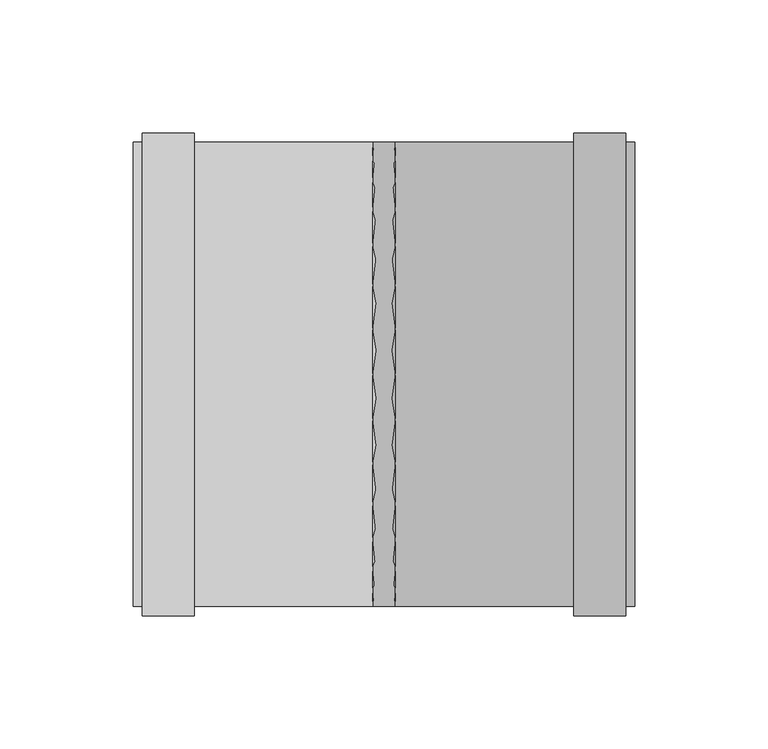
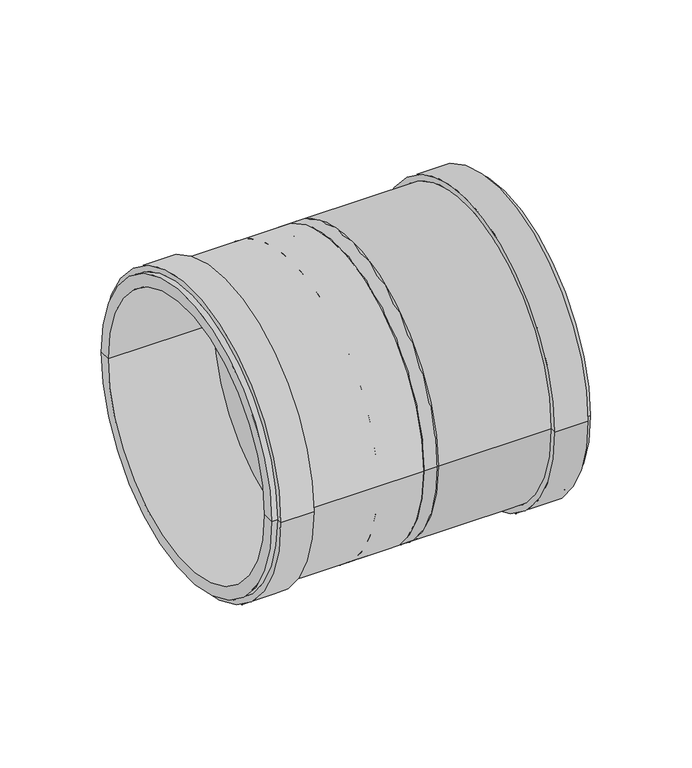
"""IFC4 building model written with IfcOpenShell, lengths in millimetres: pipe fitting geometry, pf_HTU : pf_HTU."""

from ifc_helpers import new_model, si_unit, point, frame, origin, origin_2d, place, context, project, spatial, polyline, circle_curve, trimmed, segment, composite_curve, outline, extrude, source, transform, mapped, element, save
from ifc_brep_helpers import plane_surface, cylinder_surface, revolved_surface, advanced_brep


def pipe_fitting_ccd48016(model_context):
    return source(origin(), model_context, "Body", "SolidModel", [
        advanced_brep(
        [(6.5, -80.0, 0.0), (6.5, 80.0, 0.0), (16.8, 87.1, 0.0), (16.8, -87.1, 0.0), (6.5, 0.0, 0.0), (106.5, -87.1, 0.0), (106.5, 87.1, 0.0), (106.5, 80.0, 0.0), (106.5, -80.0, 0.0), (103.1, -87.1, 0.0), (103.1, 87.1, 0.0), (103.1, -90.5, 0.0), (103.1, 90.5, 0.0), (83.6, -90.5, 0.0), (83.6, 90.5, 0.0), (83.6, -87.1, 0.0), (83.6, 87.1, 0.0), (16.8, -80.0, 0.0), (16.8, 80.0, 0.0), (16.8, 0.0, 0.0)],
        [
            (0, 1, circle_curve(frame((6.5, 0.0, 0.0), z_axis=(1.0, 0.0, 0.0), x_axis=(0.0, 1.0, 0.0)), 80.0)),
            (1, 2),
            (2, 3, circle_curve(frame((16.8, 0.0, 0.0), z_axis=(-1.0, 0.0, 0.0), x_axis=(0.0, 1.0, 0.0)), 87.1)),
            (3, 0),
            (1, 0, circle_curve(frame((6.5, 0.0, 0.0), z_axis=(1.0, 0.0, 0.0), x_axis=(0.0, 1.0, 0.0)), 80.0)),
            (3, 2, circle_curve(frame((16.8, 0.0, 0.0), z_axis=(-1.0, 0.0, 0.0), x_axis=(0.0, 1.0, 0.0)), 87.1)),
            (4, 1),
            (0, 4),
            (5, 6, circle_curve(frame((106.5, 0.0, 0.0), z_axis=(1.0, 0.0, 0.0), x_axis=(0.0, 1.0, 0.0)), 87.1)),
            (6, 7),
            (7, 8, circle_curve(frame((106.5, 0.0, 0.0), z_axis=(-1.0, 0.0, 0.0), x_axis=(0.0, 1.0, 0.0)), 80.0)),
            (8, 5),
            (6, 5, circle_curve(frame((106.5, 0.0, 0.0), z_axis=(1.0, 0.0, 0.0), x_axis=(0.0, 1.0, 0.0)), 87.1)),
            (8, 7, circle_curve(frame((106.5, 0.0, 0.0), z_axis=(-1.0, 0.0, 0.0), x_axis=(0.0, 1.0, 0.0)), 80.0)),
            (9, 10, circle_curve(frame((103.1, 0.0, 0.0), z_axis=(1.0, 0.0, 0.0), x_axis=(0.0, 1.0, 0.0)), 87.1)),
            (10, 6),
            (5, 9),
            (10, 9, circle_curve(frame((103.1, 0.0, 0.0), z_axis=(1.0, 0.0, 0.0), x_axis=(0.0, 1.0, 0.0)), 87.1)),
            (11, 12, circle_curve(frame((103.1, 0.0, 0.0), z_axis=(1.0, 0.0, 0.0), x_axis=(0.0, 1.0, 0.0)), 90.5)),
            (12, 10),
            (9, 11),
            (12, 11, circle_curve(frame((103.1, 0.0, 0.0), z_axis=(1.0, 0.0, 0.0), x_axis=(0.0, 1.0, 0.0)), 90.5)),
            (13, 14, circle_curve(frame((83.6, 0.0, 0.0), z_axis=(1.0, 0.0, 0.0), x_axis=(0.0, 1.0, 0.0)), 90.5)),
            (14, 12),
            (11, 13),
            (14, 13, circle_curve(frame((83.6, 0.0, 0.0), z_axis=(1.0, 0.0, 0.0), x_axis=(0.0, 1.0, 0.0)), 90.5)),
            (15, 16, circle_curve(frame((83.6, 0.0, 0.0), z_axis=(1.0, 0.0, 0.0), x_axis=(0.0, 1.0, 0.0)), 87.1)),
            (16, 14),
            (13, 15),
            (16, 15, circle_curve(frame((83.6, 0.0, 0.0), z_axis=(1.0, 0.0, 0.0), x_axis=(0.0, 1.0, 0.0)), 87.1)),
            (2, 16),
            (15, 3),
            (17, 18, circle_curve(frame((16.8, 0.0, 0.0), z_axis=(1.0, 0.0, 0.0), x_axis=(0.0, 1.0, 0.0)), 80.0)),
            (18, 19),
            (19, 17),
            (18, 17, circle_curve(frame((16.8, 0.0, 0.0), z_axis=(1.0, 0.0, 0.0), x_axis=(0.0, 1.0, 0.0)), 80.0)),
            (7, 18),
            (17, 8),
        ],
        [
            revolved_surface(polyline([(16.8, 87.1, 0.0), (6.5, 80.0, 0.0)]), (6.5, 0.0, 0.0), (-1.0, 0.0, 0.0)),
            plane_surface(frame((6.5, 0.0, 0.0), z_axis=(-1.0, 0.0, 0.0), x_axis=(0.0, 1.0, 0.0))),
            plane_surface(frame((106.5, 0.0, 0.0), z_axis=(1.0, 0.0, 0.0), x_axis=(0.0, 1.0, 0.0))),
            cylinder_surface(frame((6.5, 0.0, 0.0), z_axis=(-1.0, 0.0, 0.0), x_axis=(0.0, 1.0, 0.0)), 87.1),
            plane_surface(frame((103.1, 0.0, 0.0), z_axis=(1.0, 0.0, 0.0), x_axis=(0.0, 1.0, 0.0))),
            cylinder_surface(frame((6.5, 0.0, 0.0), z_axis=(-1.0, 0.0, 0.0), x_axis=(0.0, 1.0, 0.0)), 90.5),
            plane_surface(frame((83.6, 0.0, 0.0), z_axis=(-1.0, 0.0, 0.0), x_axis=(0.0, 1.0, 0.0))),
            plane_surface(frame((16.8, 0.0, 0.0), z_axis=(1.0, 0.0, 0.0), x_axis=(0.0, 1.0, 0.0))),
            revolved_surface(polyline([(16.8, 80.0, 0.0), (106.5, 80.0, 0.0)]), (6.5, 0.0, 0.0), (-1.0, 0.0, 0.0)),
        ],
        [
            (0, [[1, 2, 3, 4]]),
            (0, [[5, -4, 6, -2]]),
            (1, [[7, -1, 8]]),
            (1, [[-8, -5, -7]]),
            (2, [[9, 10, 11, 12]]),
            (2, [[13, -12, 14, -10]]),
            (3, [[15, 16, -9, 17]]),
            (3, [[18, -17, -13, -16]]),
            (4, [[19, 20, -15, 21]]),
            (4, [[22, -21, -18, -20]]),
            (5, [[23, 24, -19, 25]]),
            (5, [[26, -25, -22, -24]]),
            (6, [[27, 28, -23, 29]]),
            (6, [[30, -29, -26, -28]]),
            (3, [[-3, 31, -27, 32]]),
            (3, [[-6, -32, -30, -31]]),
            (7, [[33, 34, 35]]),
            (7, [[36, -35, -34]]),
            (8, [[-11, 37, -33, 38]]),
            (8, [[-14, -38, -36, -37]]),
        ],
    ),
        advanced_brep(
        [(18.5, 80.0, 0.0), (18.5, -80.0, 0.0), (8.2, -87.1, 0.0), (8.2, 87.1, 0.0), (18.5, 0.0, 0.0), (-81.5, 87.1, 0.0), (-81.5, -87.1, 0.0), (-81.5, -80.0, 0.0), (-81.5, 80.0, 0.0), (-78.1, 87.1, 0.0), (-78.1, -87.1, 0.0), (-78.1, 90.5, 0.0), (-78.1, -90.5, 0.0), (-58.6, 90.5, 0.0), (-58.6, -90.5, 0.0), (-58.6, 87.1, 0.0), (-58.6, -87.1, 0.0), (8.2, 80.0, 0.0), (8.2, -80.0, 0.0), (8.2, 0.0, 0.0)],
        [
            (0, 1, circle_curve(frame((18.5, 0.0, 0.0), z_axis=(-1.0, 0.0, 0.0), x_axis=(0.0, -1.0, 0.0)), 80.0)),
            (1, 2),
            (2, 3, circle_curve(frame((8.2, 0.0, 0.0), z_axis=(1.0, 0.0, 0.0), x_axis=(0.0, -1.0, 0.0)), 87.1)),
            (3, 0),
            (1, 0, circle_curve(frame((18.5, 0.0, 0.0), z_axis=(-1.0, 0.0, 0.0), x_axis=(0.0, -1.0, 0.0)), 80.0)),
            (3, 2, circle_curve(frame((8.2, 0.0, 0.0), z_axis=(1.0, 0.0, 0.0), x_axis=(0.0, -1.0, 0.0)), 87.1)),
            (4, 1),
            (0, 4),
            (5, 6, circle_curve(frame((-81.5, 0.0, 0.0), z_axis=(-1.0, 0.0, 0.0), x_axis=(0.0, -1.0, 0.0)), 87.1)),
            (6, 7),
            (7, 8, circle_curve(frame((-81.5, 0.0, 0.0), z_axis=(1.0, 0.0, 0.0), x_axis=(0.0, -1.0, 0.0)), 80.0)),
            (8, 5),
            (6, 5, circle_curve(frame((-81.5, 0.0, 0.0), z_axis=(-1.0, 0.0, 0.0), x_axis=(0.0, -1.0, 0.0)), 87.1)),
            (8, 7, circle_curve(frame((-81.5, 0.0, 0.0), z_axis=(1.0, 0.0, 0.0), x_axis=(0.0, -1.0, 0.0)), 80.0)),
            (9, 10, circle_curve(frame((-78.1, 0.0, 0.0), z_axis=(-1.0, 0.0, 0.0), x_axis=(0.0, -1.0, 0.0)), 87.1)),
            (10, 6),
            (5, 9),
            (10, 9, circle_curve(frame((-78.1, 0.0, 0.0), z_axis=(-1.0, 0.0, 0.0), x_axis=(0.0, -1.0, 0.0)), 87.1)),
            (11, 12, circle_curve(frame((-78.1, 0.0, 0.0), z_axis=(-1.0, 0.0, 0.0), x_axis=(0.0, -1.0, 0.0)), 90.5)),
            (12, 10),
            (9, 11),
            (12, 11, circle_curve(frame((-78.1, 0.0, 0.0), z_axis=(-1.0, 0.0, 0.0), x_axis=(0.0, -1.0, 0.0)), 90.5)),
            (13, 14, circle_curve(frame((-58.6, 0.0, 0.0), z_axis=(-1.0, 0.0, 0.0), x_axis=(0.0, -1.0, 0.0)), 90.5)),
            (14, 12),
            (11, 13),
            (14, 13, circle_curve(frame((-58.6, 0.0, 0.0), z_axis=(-1.0, 0.0, 0.0), x_axis=(0.0, -1.0, 0.0)), 90.5)),
            (15, 16, circle_curve(frame((-58.6, 0.0, 0.0), z_axis=(-1.0, 0.0, 0.0), x_axis=(0.0, -1.0, 0.0)), 87.1)),
            (16, 14),
            (13, 15),
            (16, 15, circle_curve(frame((-58.6, 0.0, 0.0), z_axis=(-1.0, 0.0, 0.0), x_axis=(0.0, -1.0, 0.0)), 87.1)),
            (2, 16),
            (15, 3),
            (17, 18, circle_curve(frame((8.2, 0.0, 0.0), z_axis=(-1.0, 0.0, 0.0), x_axis=(0.0, -1.0, 0.0)), 80.0)),
            (18, 19),
            (19, 17),
            (18, 17, circle_curve(frame((8.2, 0.0, 0.0), z_axis=(-1.0, 0.0, 0.0), x_axis=(0.0, -1.0, 0.0)), 80.0)),
            (7, 18),
            (17, 8),
        ],
        [
            revolved_surface(polyline([(8.2, -87.1, 0.0), (18.5, -80.0, 0.0)]), (18.5, 0.0, 0.0), (1.0, 0.0, 0.0)),
            plane_surface(frame((18.5, 0.0, 0.0), z_axis=(1.0, 0.0, 0.0), x_axis=(0.0, -1.0, 0.0))),
            plane_surface(frame((-81.5, 0.0, 0.0), z_axis=(-1.0, 0.0, 0.0), x_axis=(0.0, -1.0, 0.0))),
            cylinder_surface(frame((18.5, 0.0, 0.0), z_axis=(1.0, 0.0, 0.0), x_axis=(0.0, -1.0, 0.0)), 87.1),
            plane_surface(frame((-78.1, 0.0, 0.0), z_axis=(-1.0, 0.0, 0.0), x_axis=(0.0, -1.0, 0.0))),
            cylinder_surface(frame((18.5, 0.0, 0.0), z_axis=(1.0, 0.0, 0.0), x_axis=(0.0, -1.0, 0.0)), 90.5),
            plane_surface(frame((-58.6, 0.0, 0.0), z_axis=(1.0, 0.0, 0.0), x_axis=(0.0, -1.0, 0.0))),
            plane_surface(frame((8.2, 0.0, 0.0), z_axis=(-1.0, 0.0, 0.0), x_axis=(0.0, -1.0, 0.0))),
            revolved_surface(polyline([(8.2, -80.0, 0.0), (-81.5, -80.0, 0.0)]), (18.5, 0.0, 0.0), (1.0, 0.0, 0.0)),
        ],
        [
            (0, [[1, 2, 3, 4]]),
            (0, [[5, -4, 6, -2]]),
            (1, [[7, -1, 8]]),
            (1, [[-8, -5, -7]]),
            (2, [[9, 10, 11, 12]]),
            (2, [[13, -12, 14, -10]]),
            (3, [[15, 16, -9, 17]]),
            (3, [[18, -17, -13, -16]]),
            (4, [[19, 20, -15, 21]]),
            (4, [[22, -21, -18, -20]]),
            (5, [[23, 24, -19, 25]]),
            (5, [[26, -25, -22, -24]]),
            (6, [[27, 28, -23, 29]]),
            (6, [[30, -29, -26, -28]]),
            (3, [[-3, 31, -27, 32]]),
            (3, [[-6, -32, -30, -31]]),
            (7, [[33, 34, 35]]),
            (7, [[36, -35, -34]]),
            (8, [[-11, 37, -33, 38]]),
            (8, [[-14, -38, -36, -37]]),
        ],
    ),
        extrude(outline(composite_curve([segment(trimmed(circle_curve(origin_2d(), 87.1), [point((-87.1, 0.0))], [point((87.1, 0.0))], False, "CARTESIAN"), True, "CONTINUOUS"), segment(trimmed(circle_curve(origin_2d(), 87.1), [point((87.1, 0.0))], [point((-87.1, 0.0))], False, "CARTESIAN"), True, "CONTINUOUS")], self_intersect=False)), frame((-19.2389226, 0.0, 0.0), z_axis=(1.0, 0.0, 0.0), x_axis=(0.0, 1.0, 0.0)), (0.0, 0.0, 1.0), 38.4778452),
    ])


if __name__ == "__main__":
    model = new_model("IFC4")
    model_context = context("Model", 3, world=origin())
    ifc_project = project(units=[si_unit("LENGTHUNIT", "METRE", prefix="MILLI")], contexts=[model_context])
    site = spatial("IfcSite", under=ifc_project)
    building = spatial("IfcBuilding", under=site)
    placement = place(None, origin())
    pipe_fitting_shape = pipe_fitting_ccd48016(model_context)
    element("IfcPipeFitting", 1, ObjectType="pf_HTU : pf_HTU", at=placement, inside=building, context=model_context, shape_type="MappedRepresentation", body=[
        mapped(pipe_fitting_shape, transform((0.0, 0.0, 0.0), x_axis=(1.0, 0.0, 0.0), y_axis=(0.0, 1.0, 0.0), z_axis=(0.0, 0.0, 1.0))),
    ])
    save(model, "model.ifc")
